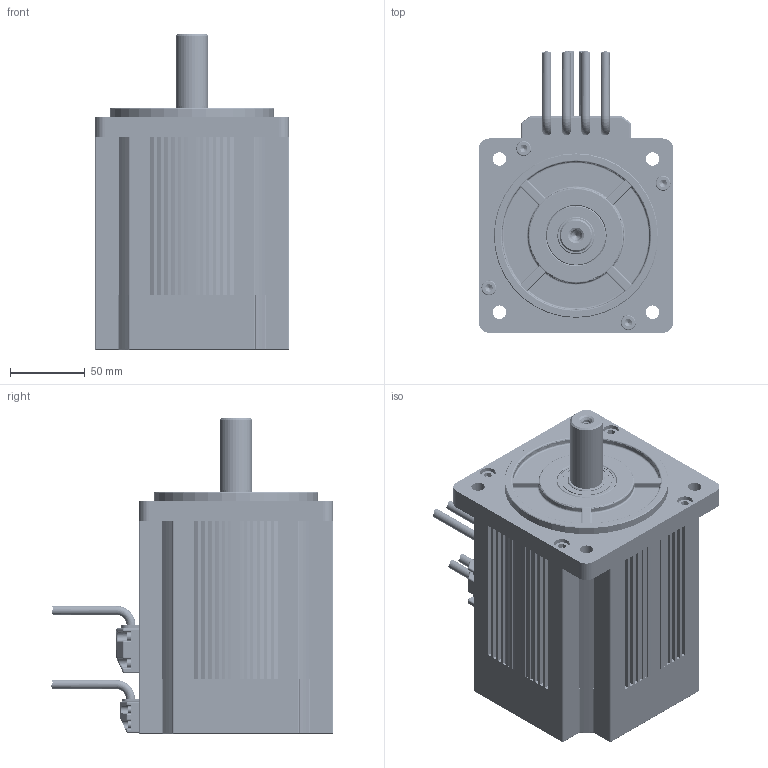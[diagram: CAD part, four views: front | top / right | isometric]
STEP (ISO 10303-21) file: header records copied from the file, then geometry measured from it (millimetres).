
FILE_DESCRIPTION (( 'STEP AP203' ), '1' );
FILE_NAME ('130L40-B-竘盄碟-4盄.STEP', '2022-07-30T08:19:26', ( 'muse' ), ( 'Organization' ), 'SwSTEP 2.0', 'SolidWorks 2018', '' );
FILE_SCHEMA (( 'CONFIG_CONTROL_DESIGN' ));
Length unit declared in the file: millimetre
Products named in the file (1): 130L40-B-竘盄碟-4盄
Bounding box: 130 x 188.82 x 211 mm (x, y, z)
Volume: 877277.6 mm3; surface area: 354684.4 mm2
Topology: 32 solids, 32 shells, 4676 faces, 10245 edges, 5634 vertices
Faces by surface type: cone 1947, cylinder 1618, plane 694, bspline 180, torus 179, sphere 58
Entity records: 130711 total; most frequent: CARTESIAN_POINT 27907, DIRECTION 23401, ORIENTED_EDGE 20306, EDGE_CURVE 10153, AXIS2_PLACEMENT_3D 9232, VERTEX_POINT 5628, LINE 4937, VECTOR 4937
